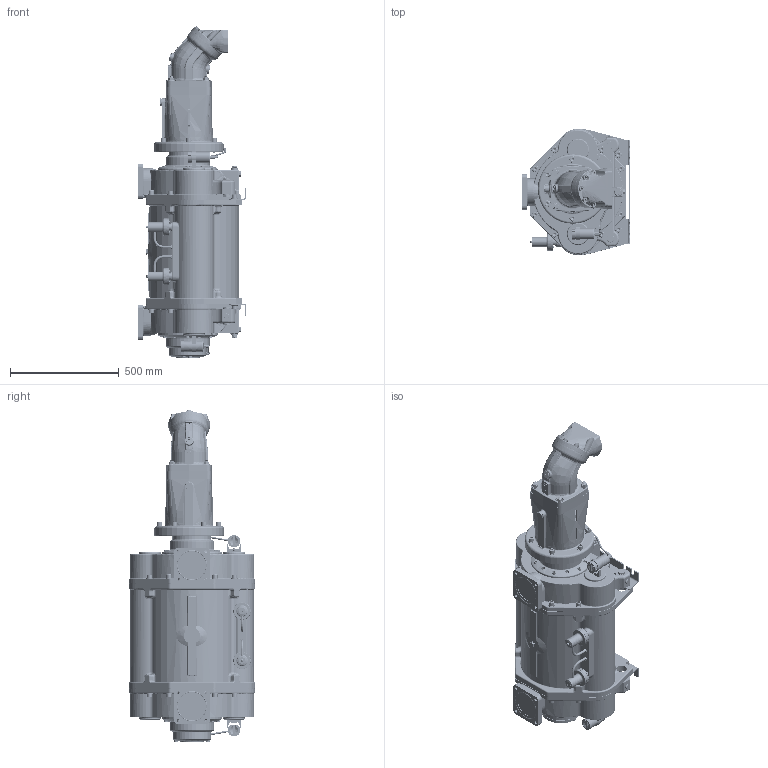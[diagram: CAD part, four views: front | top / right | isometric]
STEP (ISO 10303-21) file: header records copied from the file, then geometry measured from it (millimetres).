
FILE_DESCRIPTION(/* description */ (''),/* implementation_level */ '2;1');
FILE_NAME(/* name */ '1700154B.stp',/* time_stamp */ '2025-09-24T15:24:59+02:00',/* author */ ('JJ'),/* organization */ (''),/* preprocessor_version */ 'ST-DEVELOPER v20',/* originating_system */ 'Autodesk Inventor 2025',/* authorisation */ '');
FILE_SCHEMA (('AUTOMOTIVE_DESIGN { 1 0 10303 214 3 1 1 }'));
Products named in the file (30): 1700154; 1700034 Ready for adaptor; 1700154_Part4; 1700153_Part2; 1615105; 944000089; 932400154; 932400160; 910100148; 910300480; 922200266; 932400156; 1620316; 1634826; 1634811; 922000266; 915000050; 910100197; 910100161; 910300509; 915000232; 915000225; 915000225-part1; 915000225-part2; 944600240; 910100191; 910300221; 944600173; 944600239; 915000217-TM5 adapter
Assembly tree (52 placements, depth 3):
  1700154
    1700034 Ready for adaptor
    1700154_Part4
    1700153_Part2
    1615105
    944000089
    932400154
    932400160
    910100148  x10
    910300480  x6
    922200266
    932400156
    1620316
    1634826
      1634811
      922000266
    915000050
    910100197  x4
    910100161  x4
    910300509  x4
    915000232
    915000225
      915000225-part1
      915000225-part2
    944600240
    910100191
    910300221
    944600173
    944600239
    915000217-TM5 adapter
Bounding box: 499.1 x 579 x 1525.57 mm (x, y, z)
Volume: 145256387.3 mm3; surface area: 4166063.3 mm2
Topology: 54 solids, 54 shells, 6741 faces, 16973 edges, 10732 vertices
Faces by surface type: plane 2503, bspline 1638, cylinder 1595, cone 520, torus 399, sphere 86
Full cylindrical faces by diameter (mm): 1.5 x16, 3 x2, 3.2 x4, 3.3 x4, 3.5 x2, 4 x6, 4.134 x4, 4.92 x8, 5 x2, 5.3 x2, 6 x14, 6.1 x2, 6.4 x2, 6.647 x1, 8 x15, 8.5 x3, 8.57 x2, 8.92 x1, 9.2 x2, 9.7 x2, 9.8 x4, 10 x17, 10.106 x18, 11 x11, 11.445 x1, 12 x13, 13 x18, 13.5 x4, 13.835 x24, 14 x1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
Entity records: 379057 total; most frequent: CARTESIAN_POINT 229609, ORIENTED_EDGE 31914, DIRECTION 26588, EDGE_CURVE 15957, VERTEX_POINT 10174, AXIS2_PLACEMENT_3D 9977, EDGE_LOOP 7085, LINE 6634
